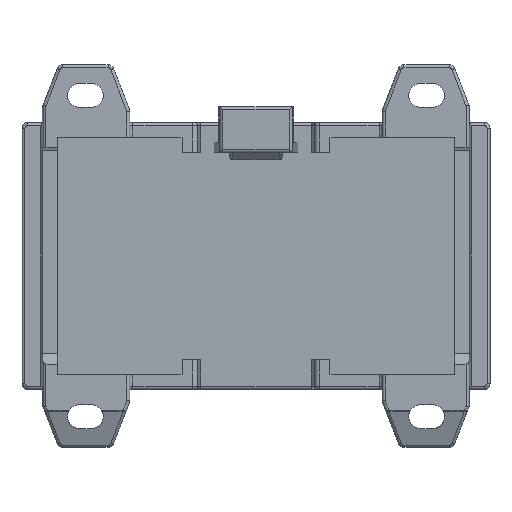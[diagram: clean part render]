
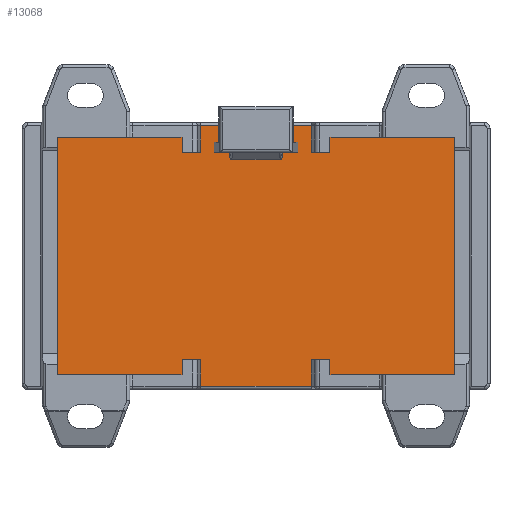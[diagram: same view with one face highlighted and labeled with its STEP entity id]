
A CAD part, front view. The second image highlights one B-rep face of the part: STEP entity #13068.
In plain terms, the highlighted planar face has unit normal (0, -1, 0).
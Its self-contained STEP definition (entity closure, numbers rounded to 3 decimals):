
#1763=DIRECTION('',(1.,0.,0.));
#1764=VECTOR('',#1763,14.061);
#1765=CARTESIAN_POINT('',(-7.03,11.9,19.15));
#1766=LINE('',#1765,#1764);
#1767=DIRECTION('',(0.,0.,-1.));
#1768=VECTOR('',#1767,1.7);
#1769=CARTESIAN_POINT('',(-7.03,11.9,19.15));
#1770=LINE('',#1769,#1768);
#1771=DIRECTION('',(1.,0.,0.));
#1772=VECTOR('',#1771,14.061);
#1773=CARTESIAN_POINT('',(-7.03,11.9,17.45));
#1774=LINE('',#1773,#1772);
#1801=DIRECTION('',(-1.,0.,0.));
#1802=VECTOR('',#1801,18.708);
#1803=CARTESIAN_POINT('',(9.354,11.9,-22.));
#1804=LINE('',#1803,#1802);
#1805=DIRECTION('',(0.,0.,1.));
#1806=VECTOR('',#1805,4.55);
#1807=CARTESIAN_POINT('',(-9.354,11.9,-22.));
#1808=LINE('',#1807,#1806);
#1809=DIRECTION('',(1.,0.,0.));
#1810=VECTOR('',#1809,3.121);
#1811=CARTESIAN_POINT('',(-12.475,11.9,-17.45));
#1812=LINE('',#1811,#1810);
#1813=DIRECTION('',(0.,0.,1.));
#1814=VECTOR('',#1813,2.55);
#1815=CARTESIAN_POINT('',(-12.475,11.9,-20.));
#1816=LINE('',#1815,#1814);
#1817=DIRECTION('',(1.,0.,0.));
#1818=VECTOR('',#1817,21.02);
#1819=CARTESIAN_POINT('',(-33.495,11.9,-20.));
#1820=LINE('',#1819,#1818);
#1821=DIRECTION('',(0.,0.,-1.));
#1822=VECTOR('',#1821,40.);
#1823=CARTESIAN_POINT('',(-33.495,11.9,20.));
#1824=LINE('',#1823,#1822);
#1825=DIRECTION('',(-1.,0.,0.));
#1826=VECTOR('',#1825,21.02);
#1827=CARTESIAN_POINT('',(-12.475,11.9,20.));
#1828=LINE('',#1827,#1826);
#1829=DIRECTION('',(0.,0.,1.));
#1830=VECTOR('',#1829,2.55);
#1831=CARTESIAN_POINT('',(-12.475,11.9,17.45));
#1832=LINE('',#1831,#1830);
#1833=DIRECTION('',(-1.,0.,0.));
#1834=VECTOR('',#1833,3.121);
#1835=CARTESIAN_POINT('',(-9.354,11.9,17.45));
#1836=LINE('',#1835,#1834);
#1837=DIRECTION('',(0.,0.,1.));
#1838=VECTOR('',#1837,4.55);
#1839=CARTESIAN_POINT('',(-9.354,11.9,17.45));
#1840=LINE('',#1839,#1838);
#1841=DIRECTION('',(1.,0.,0.));
#1842=VECTOR('',#1841,18.708);
#1843=CARTESIAN_POINT('',(-9.354,11.9,22.));
#1844=LINE('',#1843,#1842);
#1845=DIRECTION('',(0.,0.,1.));
#1846=VECTOR('',#1845,4.55);
#1847=CARTESIAN_POINT('',(9.354,11.9,17.45));
#1848=LINE('',#1847,#1846);
#1849=DIRECTION('',(-1.,0.,0.));
#1850=VECTOR('',#1849,3.121);
#1851=CARTESIAN_POINT('',(12.475,11.9,17.45));
#1852=LINE('',#1851,#1850);
#1853=DIRECTION('',(0.,0.,-1.));
#1854=VECTOR('',#1853,2.55);
#1855=CARTESIAN_POINT('',(12.475,11.9,20.));
#1856=LINE('',#1855,#1854);
#1857=DIRECTION('',(-1.,0.,0.));
#1858=VECTOR('',#1857,21.02);
#1859=CARTESIAN_POINT('',(33.495,11.9,20.));
#1860=LINE('',#1859,#1858);
#1861=DIRECTION('',(0.,0.,1.));
#1862=VECTOR('',#1861,40.);
#1863=CARTESIAN_POINT('',(33.495,11.9,-20.));
#1864=LINE('',#1863,#1862);
#1865=DIRECTION('',(1.,0.,0.));
#1866=VECTOR('',#1865,21.02);
#1867=CARTESIAN_POINT('',(12.475,11.9,-20.));
#1868=LINE('',#1867,#1866);
#1869=DIRECTION('',(0.,0.,-1.));
#1870=VECTOR('',#1869,2.55);
#1871=CARTESIAN_POINT('',(12.475,11.9,-17.45));
#1872=LINE('',#1871,#1870);
#1873=DIRECTION('',(1.,0.,0.));
#1874=VECTOR('',#1873,3.121);
#1875=CARTESIAN_POINT('',(9.354,11.9,-17.45));
#1876=LINE('',#1875,#1874);
#1877=DIRECTION('',(0.,0.,1.));
#1878=VECTOR('',#1877,4.55);
#1879=CARTESIAN_POINT('',(9.354,11.9,-22.));
#1880=LINE('',#1879,#1878);
#1929=DIRECTION('',(0.,0.,-1.));
#1930=VECTOR('',#1929,1.7);
#1931=CARTESIAN_POINT('',(7.03,11.9,19.15));
#1932=LINE('',#1931,#1930);
#8958=CARTESIAN_POINT('',(33.495,11.9,-20.));
#8959=CARTESIAN_POINT('',(33.495,11.9,20.));
#8960=VERTEX_POINT('',#8958);
#8961=VERTEX_POINT('',#8959);
#8962=CARTESIAN_POINT('',(12.475,11.9,20.));
#8963=VERTEX_POINT('',#8962);
#8964=CARTESIAN_POINT('',(12.475,11.9,17.45));
#8965=VERTEX_POINT('',#8964);
#8966=CARTESIAN_POINT('',(-12.475,11.9,17.45));
#8967=CARTESIAN_POINT('',(-12.475,11.9,20.));
#8968=VERTEX_POINT('',#8966);
#8969=VERTEX_POINT('',#8967);
#8970=CARTESIAN_POINT('',(-33.495,11.9,20.));
#8971=VERTEX_POINT('',#8970);
#8972=CARTESIAN_POINT('',(-33.495,11.9,-20.));
#8973=VERTEX_POINT('',#8972);
#8974=CARTESIAN_POINT('',(-12.475,11.9,-20.));
#8975=VERTEX_POINT('',#8974);
#8976=CARTESIAN_POINT('',(-12.475,11.9,-17.45));
#8977=VERTEX_POINT('',#8976);
#8978=CARTESIAN_POINT('',(12.475,11.9,-17.45));
#8979=CARTESIAN_POINT('',(12.475,11.9,-20.));
#8980=VERTEX_POINT('',#8978);
#8981=VERTEX_POINT('',#8979);
#9005=CARTESIAN_POINT('',(-9.354,11.9,17.45));
#9007=VERTEX_POINT('',#9005);
#9008=CARTESIAN_POINT('',(-9.354,11.9,-17.45));
#9009=VERTEX_POINT('',#9008);
#9010=CARTESIAN_POINT('',(9.354,11.9,17.45));
#9012=VERTEX_POINT('',#9010);
#9014=CARTESIAN_POINT('',(9.354,11.9,-17.45));
#9016=VERTEX_POINT('',#9014);
#9047=CARTESIAN_POINT('',(7.03,11.9,19.15));
#9049=VERTEX_POINT('',#9047);
#9051=CARTESIAN_POINT('',(-7.03,11.9,19.15));
#9053=VERTEX_POINT('',#9051);
#9058=CARTESIAN_POINT('',(-7.03,11.9,17.45));
#9059=CARTESIAN_POINT('',(7.03,11.9,17.45));
#9060=VERTEX_POINT('',#9058);
#9061=VERTEX_POINT('',#9059);
#9943=CARTESIAN_POINT('',(9.354,11.9,-22.));
#9944=VERTEX_POINT('',#9943);
#9947=CARTESIAN_POINT('',(-9.354,11.9,-22.));
#9948=VERTEX_POINT('',#9947);
#10283=CARTESIAN_POINT('',(-9.354,11.9,22.));
#10284=VERTEX_POINT('',#10283);
#10287=CARTESIAN_POINT('',(9.354,11.9,22.));
#10288=VERTEX_POINT('',#10287);
#13011=CARTESIAN_POINT('',(-39.45,11.9,-22.5));
#13012=DIRECTION('',(0.,-1.,0.));
#13013=DIRECTION('',(1.,0.,0.));
#13014=AXIS2_PLACEMENT_3D('',#13011,#13012,#13013);
#13015=PLANE('',#13014);
#13017=ORIENTED_EDGE('',*,*,#13016,.T.);
#13019=ORIENTED_EDGE('',*,*,#13018,.T.);
#13021=ORIENTED_EDGE('',*,*,#13020,.F.);
#13023=ORIENTED_EDGE('',*,*,#13022,.F.);
#13025=ORIENTED_EDGE('',*,*,#13024,.F.);
#13027=ORIENTED_EDGE('',*,*,#13026,.F.);
#13029=ORIENTED_EDGE('',*,*,#13028,.F.);
#13031=ORIENTED_EDGE('',*,*,#13030,.F.);
#13033=ORIENTED_EDGE('',*,*,#13032,.F.);
#13035=ORIENTED_EDGE('',*,*,#13034,.T.);
#13037=ORIENTED_EDGE('',*,*,#13036,.T.);
#13039=ORIENTED_EDGE('',*,*,#13038,.F.);
#13041=ORIENTED_EDGE('',*,*,#13040,.F.);
#13043=ORIENTED_EDGE('',*,*,#13042,.F.);
#13045=ORIENTED_EDGE('',*,*,#13044,.F.);
#13047=ORIENTED_EDGE('',*,*,#13046,.F.);
#13049=ORIENTED_EDGE('',*,*,#13048,.F.);
#13051=ORIENTED_EDGE('',*,*,#13050,.F.);
#13053=ORIENTED_EDGE('',*,*,#13052,.F.);
#13055=ORIENTED_EDGE('',*,*,#13054,.F.);
#13056=EDGE_LOOP('',(#13017,#13019,#13021,#13023,#13025,#13027,#13029,#13031,
#13033,#13035,#13037,#13039,#13041,#13043,#13045,#13047,#13049,#13051,#13053,
#13055));
#13057=FACE_OUTER_BOUND('',#13056,.F.);
#13059=ORIENTED_EDGE('',*,*,#13058,.F.);
#13061=ORIENTED_EDGE('',*,*,#13060,.T.);
#13063=ORIENTED_EDGE('',*,*,#13062,.T.);
#13065=ORIENTED_EDGE('',*,*,#13064,.F.);
#13066=EDGE_LOOP('',(#13059,#13061,#13063,#13065));
#13067=FACE_BOUND('',#13066,.F.);
#13016=EDGE_CURVE('',#9944,#9948,#1804,.T.);
#13018=EDGE_CURVE('',#9948,#9009,#1808,.T.);
#13020=EDGE_CURVE('',#8977,#9009,#1812,.T.);
#13022=EDGE_CURVE('',#8975,#8977,#1816,.T.);
#13024=EDGE_CURVE('',#8973,#8975,#1820,.T.);
#13026=EDGE_CURVE('',#8971,#8973,#1824,.T.);
#13028=EDGE_CURVE('',#8969,#8971,#1828,.T.);
#13030=EDGE_CURVE('',#8968,#8969,#1832,.T.);
#13032=EDGE_CURVE('',#9007,#8968,#1836,.T.);
#13034=EDGE_CURVE('',#9007,#10284,#1840,.T.);
#13036=EDGE_CURVE('',#10284,#10288,#1844,.T.);
#13038=EDGE_CURVE('',#9012,#10288,#1848,.T.);
#13040=EDGE_CURVE('',#8965,#9012,#1852,.T.);
#13042=EDGE_CURVE('',#8963,#8965,#1856,.T.);
#13044=EDGE_CURVE('',#8961,#8963,#1860,.T.);
#13046=EDGE_CURVE('',#8960,#8961,#1864,.T.);
#13048=EDGE_CURVE('',#8981,#8960,#1868,.T.);
#13050=EDGE_CURVE('',#8980,#8981,#1872,.T.);
#13052=EDGE_CURVE('',#9016,#8980,#1876,.T.);
#13054=EDGE_CURVE('',#9944,#9016,#1880,.T.);
#13058=EDGE_CURVE('',#9053,#9049,#1766,.T.);
#13060=EDGE_CURVE('',#9053,#9060,#1770,.T.);
#13062=EDGE_CURVE('',#9060,#9061,#1774,.T.);
#13064=EDGE_CURVE('',#9049,#9061,#1932,.T.);
#13068=ADVANCED_FACE('',(#13057,#13067),#13015,.T.);
